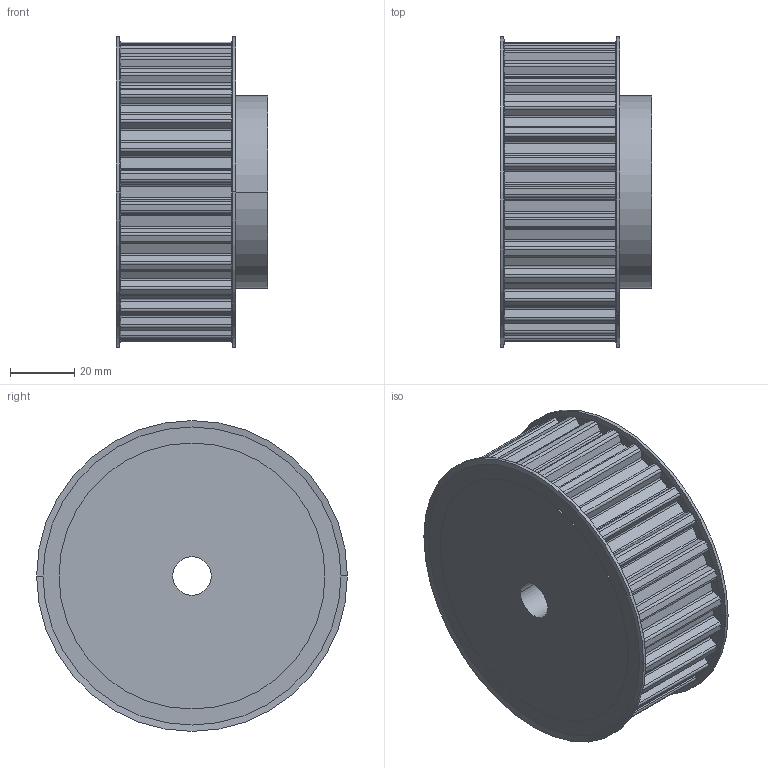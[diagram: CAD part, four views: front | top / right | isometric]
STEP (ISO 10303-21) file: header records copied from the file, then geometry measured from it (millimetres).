
FILE_DESCRIPTION( ( '' ), '1' );
FILE_NAME( 'C:/Users/Stangenbergd/Documents/CAD_Step/1/16443000.stp', '2021-10-19T08:57:38', ( '' ), ( '' ), ' ', ' ', ' ' );
FILE_SCHEMA( ( 'CONFIG_CONTROL_DESIGN' ) );
Length unit declared in the file: millimetre
Products named in the file (1): 1
Bounding box: 47.13 x 97 x 97 mm (x, y, z)
Volume: 259296.5 mm3; surface area: 35534.8 mm2
Topology: 1 solids, 1 shells, 385 faces, 1012 edges, 632 vertices
Faces by surface type: plane 215, cylinder 162, cone 8
Entity records: 12062 total; most frequent: DIRECTION 2356, CARTESIAN_POINT 2030, ORIENTED_EDGE 2024, EDGE_CURVE 1012, AXIS2_PLACEMENT_3D 958, VERTEX_POINT 632, CIRCLE 572, LINE 440
